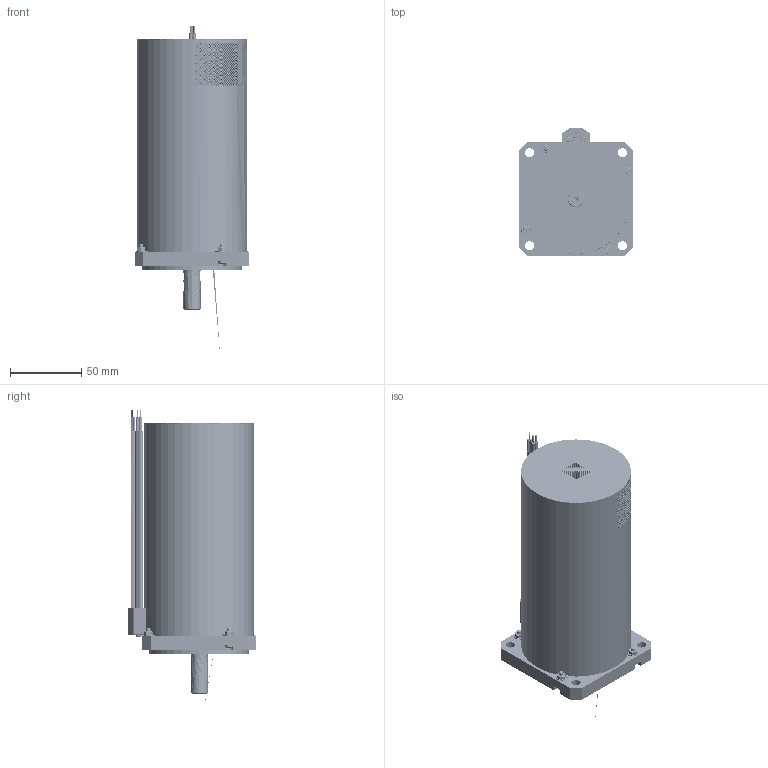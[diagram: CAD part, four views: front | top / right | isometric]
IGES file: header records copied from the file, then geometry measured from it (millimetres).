
Start section: SolidWorks IGES file using analytic representation for surfaces
Bounding box: 80 x 90.05 x 232.5 mm (x, y, z)
Surface area: 126657.2 mm2 (no closed solid volume)
Topology: 0 solids, 0 shells, 7242 faces, 56698 edges, 56694 vertices
Faces by surface type: bspline 5305, revolution 1937
